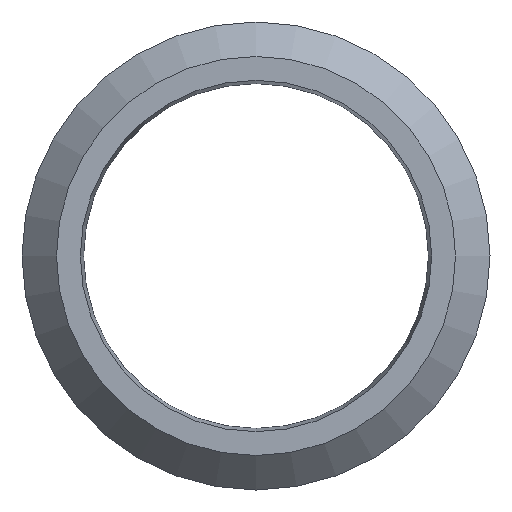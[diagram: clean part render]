
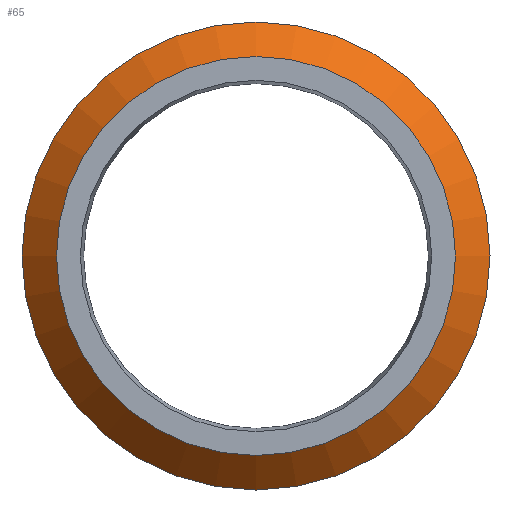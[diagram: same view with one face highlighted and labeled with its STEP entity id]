
A CAD part, left-side view. The second image highlights one B-rep face of the part: STEP entity #65.
In plain terms, the highlighted conical face has half-angle 45 degrees and reference radius 8.8 mm.
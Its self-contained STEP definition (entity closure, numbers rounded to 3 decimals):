
#65 = ADVANCED_FACE( '', ( #138, #139 ), #140, .T. );
#138 = FACE_BOUND( '', #239, .T. );
#139 = FACE_OUTER_BOUND( '', #240, .T. );
#140 = CONICAL_SURFACE( '', #241, 8.8, 0.785 );
#239 = EDGE_LOOP( '', ( #323 ) );
#240 = EDGE_LOOP( '', ( #324 ) );
#241 = AXIS2_PLACEMENT_3D( '', #325, #326, #327 );
#323 = ORIENTED_EDGE( '', *, *, #362, .T. );
#324 = ORIENTED_EDGE( '', *, *, #352, .T. );
#325 = CARTESIAN_POINT( '', ( -4.625, -2.633, 0. ) );
#326 = DIRECTION( '', ( 1., 0., 0. ) );
#327 = DIRECTION( '', ( 0., -1., 0. ) );
#352 = EDGE_CURVE( '', #392, #392, #393, .T. );
#362 = EDGE_CURVE( '', #406, #406, #407, .T. );
#392 = VERTEX_POINT( '', #437 );
#393 = CIRCLE( '', #438, 9.5 );
#406 = VERTEX_POINT( '', #451 );
#407 = CIRCLE( '', #452, 8.1 );
#437 = CARTESIAN_POINT( '', ( -3.925, -12.133, 0. ) );
#438 = AXIS2_PLACEMENT_3D( '', #484, #485, #486 );
#451 = CARTESIAN_POINT( '', ( -5.325, -10.733, 0. ) );
#452 = AXIS2_PLACEMENT_3D( '', #496, #497, #498 );
#484 = CARTESIAN_POINT( '', ( -3.925, -2.633, 0. ) );
#485 = DIRECTION( '', ( -1., 0., 0. ) );
#486 = DIRECTION( '', ( 0., -1., 0. ) );
#496 = CARTESIAN_POINT( '', ( -5.325, -2.633, 0. ) );
#497 = DIRECTION( '', ( 1., 0., 0. ) );
#498 = DIRECTION( '', ( 0., -1., 0. ) );
